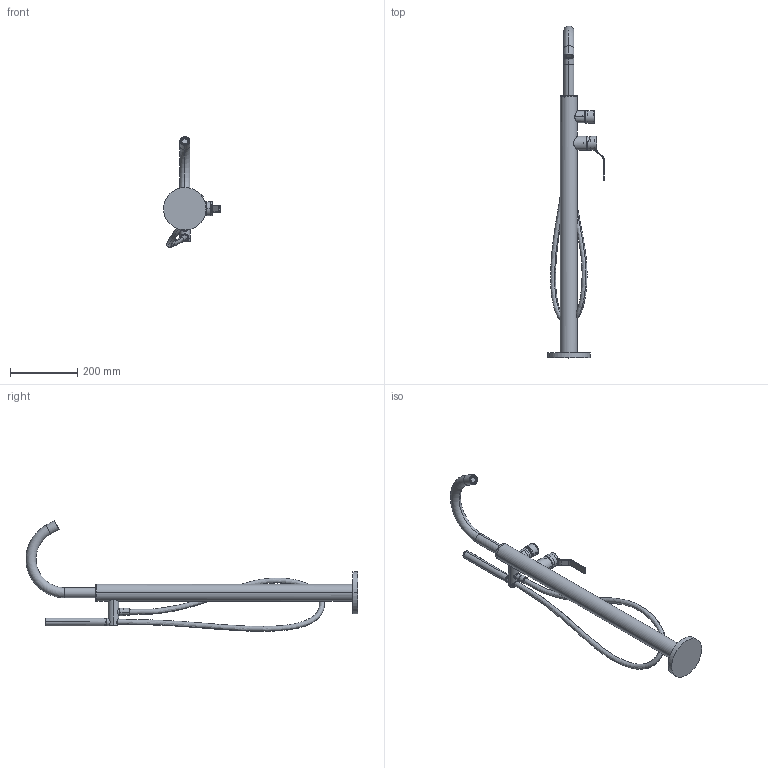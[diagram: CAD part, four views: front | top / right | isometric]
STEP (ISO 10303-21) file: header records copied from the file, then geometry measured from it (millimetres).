
FILE_DESCRIPTION((''),'2;1');
FILE_NAME('28000Y580B000000_SW0002','2023-09-11T14:57:09',('matteo.follador'),(''),'CREO PARAMETRIC BY PTC INC, 2022424','CREO PARAMETRIC BY PTC INC, 2022424','');
FILE_SCHEMA(('AUTOMOTIVE_DESIGN { 1 0 10303 214 1 1 1 1 }'));
Products named in the file (1): 28000Y580B000000_SW0002
Bounding box: 168.75 x 985.56 x 328.8 mm (x, y, z)
Volume: 2128802.9 mm3; surface area: 383447.6 mm2
Topology: 4 solids, 21 shells, 2373 faces, 6322 edges, 4113 vertices
Faces by surface type: plane 1562, cylinder 334, cone 226, torus 135, bspline 115, sphere 1
Entity records: 136927 total; most frequent: CARTESIAN_POINT 62758, ORIENTED_EDGE 12632, DIRECTION 10884, EDGE_CURVE 6316, VECTOR 4643, LINE 4643, VERTEX_POINT 4113, AXIS2_PLACEMENT_3D 3119
